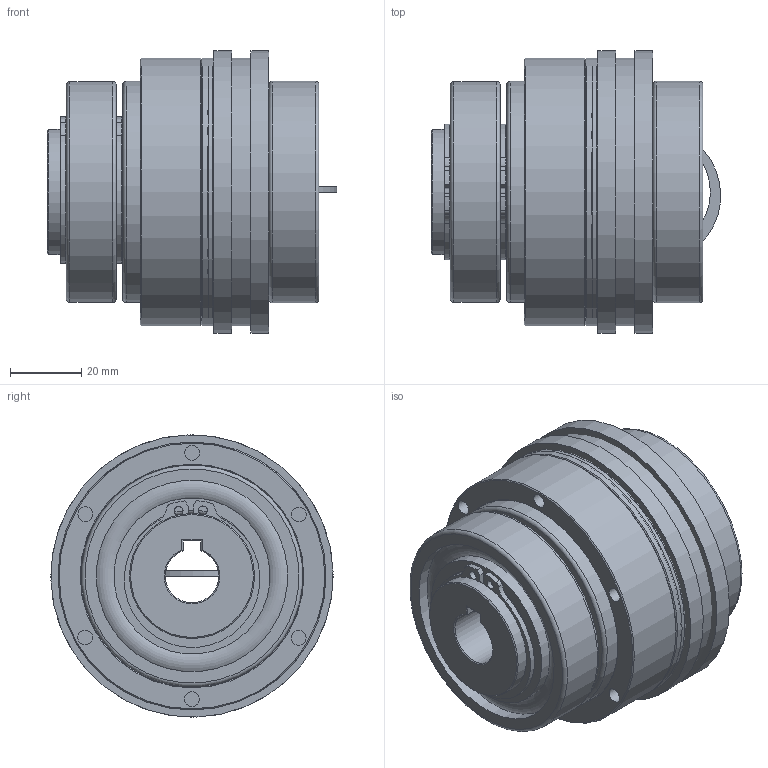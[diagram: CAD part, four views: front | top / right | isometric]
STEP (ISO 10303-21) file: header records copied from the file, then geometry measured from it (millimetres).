
FILE_DESCRIPTION( ( 'Unknown' ), '1' );
FILE_NAME( 'C:/Dokumente und Einstellungen/Sven/Desktop/hp kbk/KBK LL-P-60.stp', 'Unknown', ( 'Unknown' ), ( 'Unknown' ), 'XStep 1.0', 'Unknown', ' ' );
FILE_SCHEMA( ( 'automotive_design' ) );
Length unit declared in the file: millimetre
Products named in the file (10): Assem1; Assem2; ball_bearing_-_6007_0_01; ball_bearing_-_6007_0_02; ball_bearing_-_6007_0_03; Stellring 60; Druckring 60; a_35; KBK LL-P-60 Grundkörper; Flansch 60
Bounding box: 80.98 x 79 x 79 mm (x, y, z)
Volume: 361211 mm3; surface area: 161297.8 mm2
Topology: 23 solids, 23 shells, 270 faces, 544 edges, 342 vertices
Faces by surface type: cylinder 112, plane 98, torus 32, cone 28
Full cylindrical faces by diameter (mm): 2.5 x6, 3.242 x6, 4 x6, 4.134 x12, 33 x4, 35 x10, 43.7 x8, 44 x2, 46 x6, 46.5 x2, 53.6 x8, 61.3 x2, 62 x6, 66 x2, 75 x4, 79 x2
Entity records: 3003 total; most frequent: CARTESIAN_POINT 706, DIRECTION 494, ORIENTED_EDGE 302, AXIS2_PLACEMENT_3D 227, EDGE_LOOP 202, FACE_OUTER_BOUND 153, EDGE_CURVE 151, VERTEX_POINT 127
